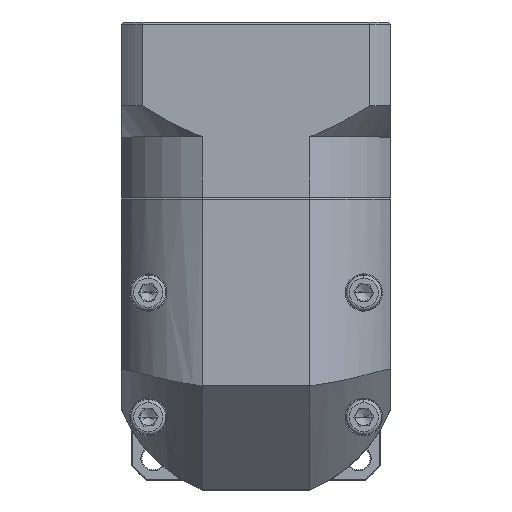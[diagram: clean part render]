
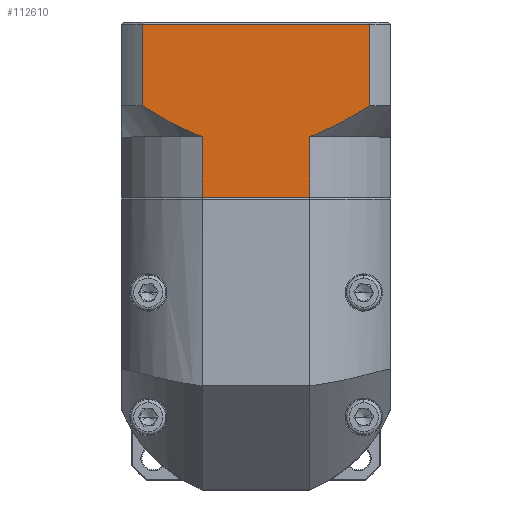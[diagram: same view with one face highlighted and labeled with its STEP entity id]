
A CAD part, top view. The second image highlights one B-rep face of the part: STEP entity #112610.
In plain terms, the highlighted planar face has unit normal (0, 0, 1).
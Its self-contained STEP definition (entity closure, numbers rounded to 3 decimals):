
#2459 = ORIENTED_EDGE ( 'NONE', *, *, #12302, .F. ) ;
#3363 = CARTESIAN_POINT ( 'NONE',  ( -38.812, 87.973, 62.31 ) ) ;
#3575 = VECTOR ( 'NONE', #30316, 1000. ) ;
#5390 = VERTEX_POINT ( 'NONE', #46009 ) ;
#5403 = EDGE_CURVE ( 'NONE', #5390, #99637, #66897, .T. ) ;
#6752 = LINE ( 'NONE', #108394, #74724 ) ;
#10354 = EDGE_CURVE ( 'NONE', #61430, #73412, #6752, .T. ) ;
#11888 = CARTESIAN_POINT ( 'NONE',  ( -85.583, 114.682, 62.31 ) ) ;
#12002 = EDGE_CURVE ( 'NONE', #90734, #73412, #39939, .T. ) ;
#12302 = EDGE_CURVE ( 'NONE', #71533, #80545, #24376, .T. ) ;
#14141 = CARTESIAN_POINT ( 'NONE',  ( -68.611, 88.424, 62.31 ) ) ;
#14311 = B_SPLINE_CURVE_WITH_KNOTS ( 'NONE', 3,
 ( #90931, #82472, #3363, #91712, #56125, #38332, #47236, #109173, #82832, #65454 ),
 .UNSPECIFIED., .F., .F.,
 ( 4, 2, 2, 2, 4 ),
 ( 0.101, 0.103, 0.105, 0.109, 0.117 ),
 .UNSPECIFIED. ) ;
#18006 = LINE ( 'NONE', #11888, #83156 ) ;
#18244 = FACE_OUTER_BOUND ( 'NONE', #58512, .T. ) ;
#19020 = VECTOR ( 'NONE', #69256, 1000. ) ;
#20421 = DIRECTION ( 'NONE',  ( 0., 1., 0. ) ) ;
#20475 = EDGE_CURVE ( 'NONE', #90734, #80545, #14311, .T. ) ;
#21381 = CARTESIAN_POINT ( 'NONE',  ( -25.697, 87.482, 62.31 ) ) ;
#22620 = CARTESIAN_POINT ( 'NONE',  ( -78.18, 93.533, 62.31 ) ) ;
#23303 = DIRECTION ( 'NONE',  ( 0., 1., 0. ) ) ;
#23347 = CARTESIAN_POINT ( 'NONE',  ( -80.469, 94.982, 62.31 ) ) ;
#24376 = LINE ( 'NONE', #21381, #3575 ) ;
#24826 = ORIENTED_EDGE ( 'NONE', *, *, #10354, .T. ) ;
#27423 = VERTEX_POINT ( 'NONE', #39001 ) ;
#27656 = ORIENTED_EDGE ( 'NONE', *, *, #12002, .F. ) ;
#28871 = DIRECTION ( 'NONE',  ( 0., 1., 0. ) ) ;
#30316 = DIRECTION ( 'NONE',  ( 0., -1., 0. ) ) ;
#38332 = CARTESIAN_POINT ( 'NONE',  ( -35.072, 89.623, 62.31 ) ) ;
#39001 = CARTESIAN_POINT ( 'NONE',  ( -66.073, 87.482, 62.31 ) ) ;
#39939 = LINE ( 'NONE', #42857, #19020 ) ;
#42857 = CARTESIAN_POINT ( 'NONE',  ( -40.093, 87.482, 62.31 ) ) ;
#46009 = CARTESIAN_POINT ( 'NONE',  ( -80.469, 94.982, 62.31 ) ) ;
#47236 = CARTESIAN_POINT ( 'NONE',  ( -33.86, 90.228, 62.31 ) ) ;
#49112 = CARTESIAN_POINT ( 'NONE',  ( -71.063, 89.569, 62.31 ) ) ;
#49426 = PLANE ( 'NONE',  #58096 ) ;
#49461 = CARTESIAN_POINT ( 'NONE',  ( -66.073, 87.482, 62.31 ) ) ;
#50978 = ORIENTED_EDGE ( 'NONE', *, *, #5403, .F. ) ;
#51152 = EDGE_CURVE ( 'NONE', #71533, #99637, #18006, .T. ) ;
#56125 = CARTESIAN_POINT ( 'NONE',  ( -36.926, 88.772, 62.31 ) ) ;
#58096 = AXIS2_PLACEMENT_3D ( 'NONE', #102017, #111351, #23303 ) ;
#58512 = EDGE_LOOP ( 'NONE', ( #2459, #106885, #50978, #73768, #105451, #24826, #27656, #107130 ) ) ;
#61430 = VERTEX_POINT ( 'NONE', #101832 ) ;
#65053 = CARTESIAN_POINT ( 'NONE',  ( -66.073, 87.482, 62.31 ) ) ;
#65454 = CARTESIAN_POINT ( 'NONE',  ( -25.697, 94.982, 62.31 ) ) ;
#66897 = LINE ( 'NONE', #82022, #98716 ) ;
#69256 = DIRECTION ( 'NONE',  ( 0., -1., 0. ) ) ;
#71533 = VERTEX_POINT ( 'NONE', #78228 ) ;
#72928 = CARTESIAN_POINT ( 'NONE',  ( -40.093, 72.982, 62.31 ) ) ;
#73412 = VERTEX_POINT ( 'NONE', #72928 ) ;
#73768 = ORIENTED_EDGE ( 'NONE', *, *, #87019, .T. ) ;
#73954 = DIRECTION ( 'NONE',  ( -1., 0., 0. ) ) ;
#74724 = VECTOR ( 'NONE', #82070, 1000. ) ;
#75754 = VECTOR ( 'NONE', #20421, 1000. ) ;
#78228 = CARTESIAN_POINT ( 'NONE',  ( -25.697, 114.682, 62.31 ) ) ;
#80545 = VERTEX_POINT ( 'NONE', #88766 ) ;
#82022 = CARTESIAN_POINT ( 'NONE',  ( -80.469, 87.482, 62.31 ) ) ;
#82070 = DIRECTION ( 'NONE',  ( 1., 0., 0. ) ) ;
#82472 = CARTESIAN_POINT ( 'NONE',  ( -39.451, 87.72, 62.31 ) ) ;
#82832 = CARTESIAN_POINT ( 'NONE',  ( -27.965, 93.52, 62.31 ) ) ;
#83156 = VECTOR ( 'NONE', #73954, 1000. ) ;
#87019 = EDGE_CURVE ( 'NONE', #5390, #27423, #113553, .T. ) ;
#88766 = CARTESIAN_POINT ( 'NONE',  ( -25.697, 94.982, 62.31 ) ) ;
#90734 = VERTEX_POINT ( 'NONE', #108793 ) ;
#90931 = CARTESIAN_POINT ( 'NONE',  ( -40.093, 87.482, 62.31 ) ) ;
#91712 = CARTESIAN_POINT ( 'NONE',  ( -37.55, 88.498, 62.31 ) ) ;
#93175 = CARTESIAN_POINT ( 'NONE',  ( -79.331, 94.248, 62.31 ) ) ;
#94306 = CARTESIAN_POINT ( 'NONE',  ( -75.845, 92.149, 62.31 ) ) ;
#98192 = CARTESIAN_POINT ( 'NONE',  ( -80.469, 114.682, 62.31 ) ) ;
#98716 = VECTOR ( 'NONE', #28871, 1000. ) ;
#99230 = LINE ( 'NONE', #65053, #75754 ) ;
#99637 = VERTEX_POINT ( 'NONE', #98192 ) ;
#101832 = CARTESIAN_POINT ( 'NONE',  ( -66.073, 72.982, 62.31 ) ) ;
#102017 = CARTESIAN_POINT ( 'NONE',  ( -85.583, 115.182, 62.31 ) ) ;
#105006 = EDGE_CURVE ( 'NONE', #61430, #27423, #99230, .T. ) ;
#105451 = ORIENTED_EDGE ( 'NONE', *, *, #105006, .F. ) ;
#106885 = ORIENTED_EDGE ( 'NONE', *, *, #51152, .T. ) ;
#107130 = ORIENTED_EDGE ( 'NONE', *, *, #20475, .T. ) ;
#108394 = CARTESIAN_POINT ( 'NONE',  ( -85.583, 72.982, 62.31 ) ) ;
#108793 = CARTESIAN_POINT ( 'NONE',  ( -40.093, 87.482, 62.31 ) ) ;
#109173 = CARTESIAN_POINT ( 'NONE',  ( -30.279, 92.133, 62.31 ) ) ;
#111351 = DIRECTION ( 'NONE',  ( 0., 0., -1. ) ) ;
#111738 = CARTESIAN_POINT ( 'NONE',  ( -74.659, 91.479, 62.31 ) ) ;
#112610 = ADVANCED_FACE ( 'NONE', ( #18244 ), #49426, .F. ) ;
#113553 = B_SPLINE_CURVE_WITH_KNOTS ( 'NONE', 3,
 ( #23347, #93175, #22620, #94306, #111738, #49112, #14141, #49461 ),
 .UNSPECIFIED., .F., .F.,
 ( 4, 2, 2, 4 ),
 ( 0.058, 0.062, 0.066, 0.074 ),
 .UNSPECIFIED. ) ;
